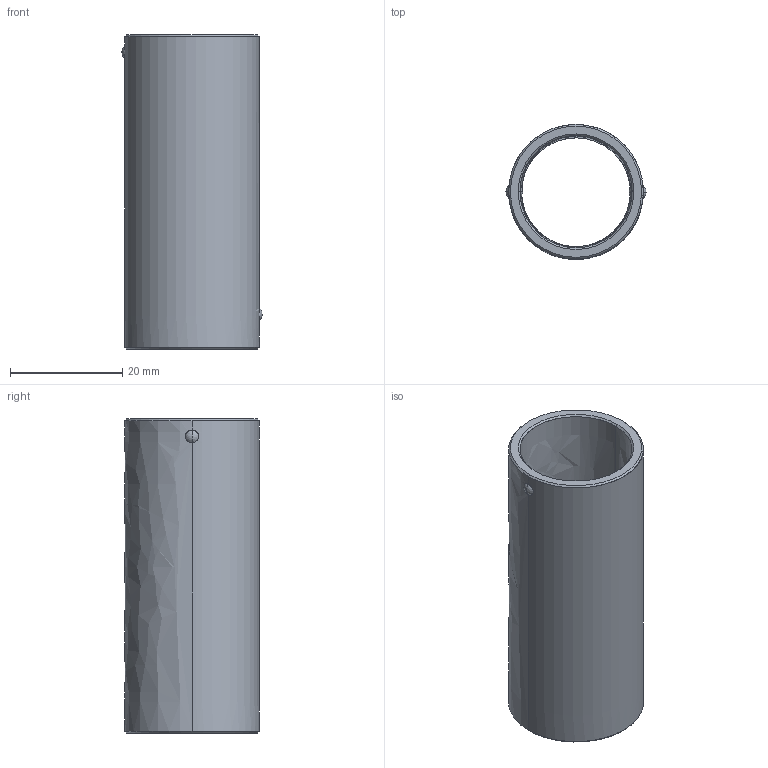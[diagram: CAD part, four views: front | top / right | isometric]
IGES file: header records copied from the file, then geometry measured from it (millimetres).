
Start section: START RECORD GO HERE.
Global section: file name: 730-19x56.igs; native system: DASSAULT SYSTEMES CATIA V5 R20 - www.3ds.com; preprocessor: CATIA Version 5 Release 20 ; author: Utente; organization: NB04-ASUS; date: 20210107.171815; units: millimetre
Bounding box: 25 x 24 x 56 mm (x, y, z)
Surface area: 8151.7 mm2 (no closed solid volume)
Topology: 0 solids, 0 shells, 44 faces, 240 edges, 240 vertices
Faces by surface type: revolution 36, plane 8
